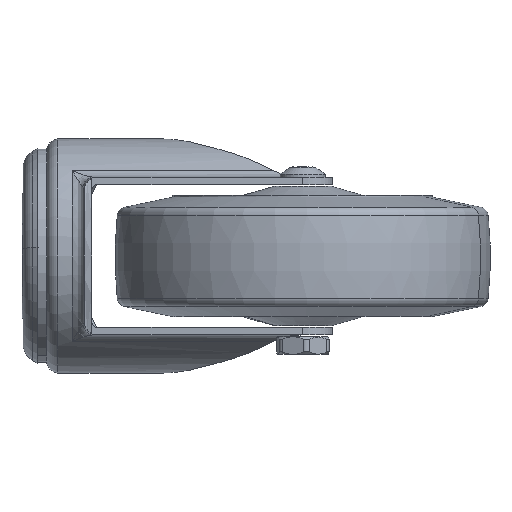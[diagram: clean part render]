
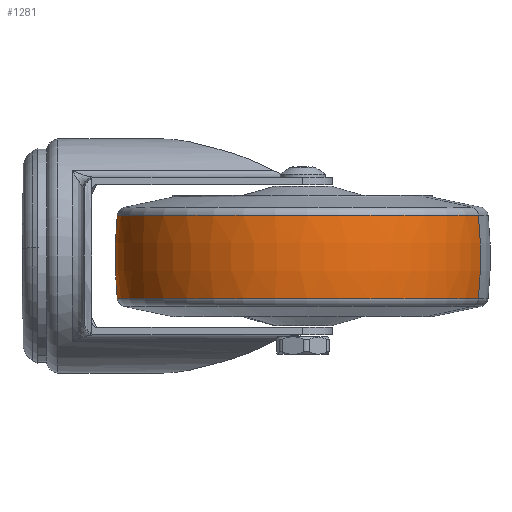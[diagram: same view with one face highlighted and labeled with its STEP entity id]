
A CAD part, left-side view. The second image highlights one B-rep face of the part: STEP entity #1281.
In plain terms, the highlighted toroidal (fillet/blend) face has major radius 62.5 mm and minor radius 125 mm.
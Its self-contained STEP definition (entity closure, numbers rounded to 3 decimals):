
#1056 = ORIENTED_EDGE ( 'NONE', *, *, #1070, .T. ) ;
#1063 = EDGE_CURVE ( 'NONE', #1137, #1065, #1617, .T. ) ;
#1065 = VERTEX_POINT ( 'NONE', #1862 ) ;
#1068 = VERTEX_POINT ( 'NONE', #1780 ) ;
#1070 = EDGE_CURVE ( 'NONE', #1073, #1068, #1863, .T. ) ;
#1073 = VERTEX_POINT ( 'NONE', #1864 ) ;
#1137 = VERTEX_POINT ( 'NONE', #1887 ) ;
#1140 = EDGE_CURVE ( 'NONE', #1065, #1068, #1808, .T. ) ;
#1200 = ORIENTED_EDGE ( 'NONE', *, *, #1205, .T. ) ;
#1202 = ORIENTED_EDGE ( 'NONE', *, *, #1063, .F. ) ;
#1203 = EDGE_LOOP ( 'NONE', ( #1202, #1200, #1056, #1297 ) ) ;
#1205 = EDGE_CURVE ( 'NONE', #1137, #1073, #2081, .T. ) ;
#1281 = ADVANCED_FACE ( 'NONE', ( #1928 ), #2116, .T. ) ;
#1297 = ORIENTED_EDGE ( 'NONE', *, *, #1140, .F. ) ;
#1609 = DIRECTION ( 'NONE',  ( 0.321, 0.947, 0. ) ) ;
#1610 = DIRECTION ( 'NONE',  ( 0.947, -0.321, 0. ) ) ;
#1611 = AXIS2_PLACEMENT_3D ( 'NONE', #1640, #1610, #1609 ) ;
#1617 = CIRCLE ( 'NONE', #1611, 125. ) ;
#1640 = CARTESIAN_POINT ( 'NONE',  ( -24.633, -82.373, 21.489 ) ) ;
#1750 = DIRECTION ( 'NONE',  ( -0.321, -0.947, 0. ) ) ;
#1751 = DIRECTION ( 'NONE',  ( -0.947, 0.321, 0. ) ) ;
#1752 = CARTESIAN_POINT ( 'NONE',  ( 15.489, 36.013, 21.489 ) ) ;
#1777 = AXIS2_PLACEMENT_3D ( 'NONE', #1752, #1751, #1750 ) ;
#1780 = CARTESIAN_POINT ( 'NONE',  ( -24.384, -81.639, 35.385 ) ) ;
#1808 = CIRCLE ( 'NONE', #1812, 61.725 ) ;
#1812 = AXIS2_PLACEMENT_3D ( 'NONE', #1882, #1881, #1880 ) ;
#1862 = CARTESIAN_POINT ( 'NONE',  ( 15.24, 35.279, 35.385 ) ) ;
#1863 = CIRCLE ( 'NONE', #1777, 125. ) ;
#1864 = CARTESIAN_POINT ( 'NONE',  ( -24.384, -81.639, 7.593 ) ) ;
#1880 = DIRECTION ( 'NONE',  ( -0.321, -0.947, 0. ) ) ;
#1881 = DIRECTION ( 'NONE',  ( 0., 0., 1. ) ) ;
#1882 = CARTESIAN_POINT ( 'NONE',  ( -4.572, -23.18, 35.385 ) ) ;
#1887 = CARTESIAN_POINT ( 'NONE',  ( 15.24, 35.279, 7.593 ) ) ;
#1928 = FACE_OUTER_BOUND ( 'NONE', #1203, .T. ) ;
#1935 = AXIS2_PLACEMENT_3D ( 'NONE', #1994, #1993, #2107 ) ;
#1979 = DIRECTION ( 'NONE',  ( -0.321, -0.947, 0. ) ) ;
#1980 = DIRECTION ( 'NONE',  ( 0., 0., 1. ) ) ;
#1981 = CARTESIAN_POINT ( 'NONE',  ( -4.572, -23.18, 7.593 ) ) ;
#1982 = AXIS2_PLACEMENT_3D ( 'NONE', #1981, #1980, #1979 ) ;
#1993 = DIRECTION ( 'NONE',  ( 0., 0., 1. ) ) ;
#1994 = CARTESIAN_POINT ( 'NONE',  ( -4.572, -23.18, 21.489 ) ) ;
#2081 = CIRCLE ( 'NONE', #1982, 61.725 ) ;
#2107 = DIRECTION ( 'NONE',  ( -0.321, -0.947, 0. ) ) ;
#2116 = TOROIDAL_SURFACE ( 'NONE', #1935, -62.5, 125. ) ;
